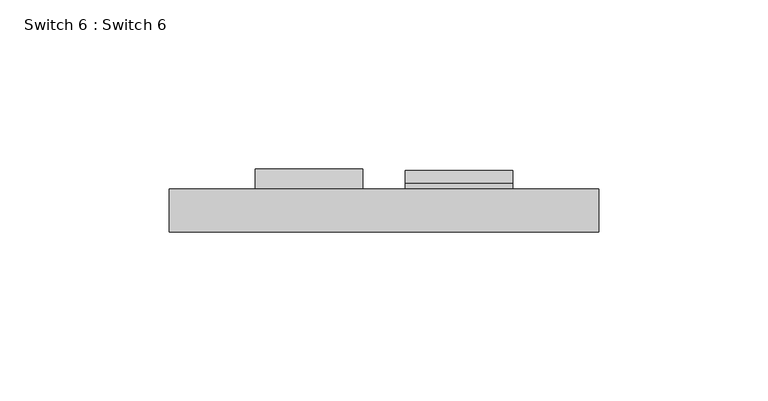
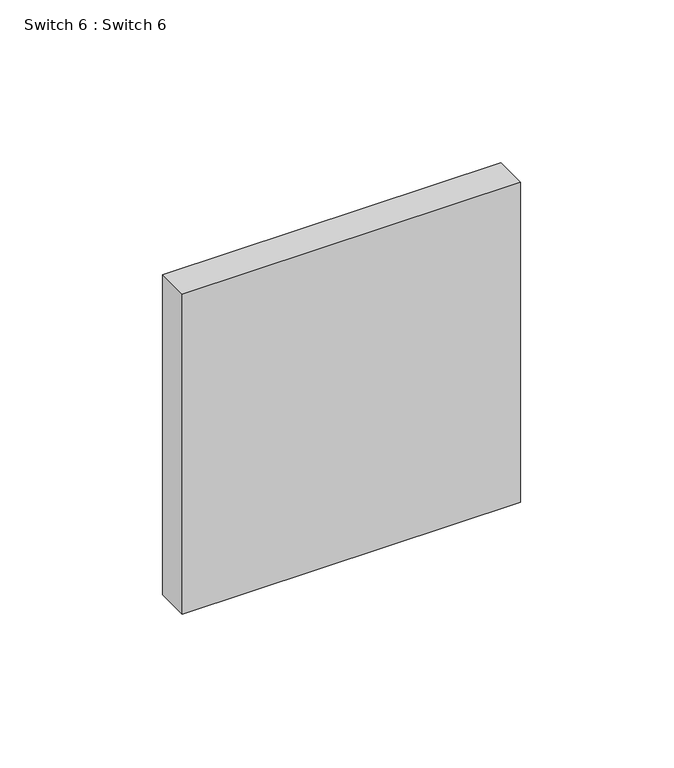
"""IFC4 building model written with IfcOpenShell, lengths in millimetres: proxy geometry, Switch 6 : Switch 6."""

from ifc_helpers import new_model, si_unit, frame, origin, origin_with_axes, place, context, project, spatial, polyline, outline, extrude, source, transform, mapped, element, save


def switch_6_switch_6_ad3d04ee(model_context):
    return source(origin(), model_context, "Body", "SweptSolid", [
        extrude(outline(polyline([(12.7, 29.9435375), (12.7, 97.0564625), (14.2887413, 97.0564625), (14.2887413, 53.2142084), (18.2038595, 31.0133795), (12.7, 29.9435375)])), frame((4.8692501, 0.0, 0.0), z_axis=(1.0, 0.0, 0.0), x_axis=(0.0, 1.0, 0.0)), (0.0, 0.0, 1.0), 31.75),
        extrude(outline(polyline([(12.7, 96.6014583), (18.5970125, 95.4551952), (14.2887413, 71.0249774), (14.2887413, 29.4885334), (12.7, 29.4885334), (12.7, 96.6014583)])), frame((-39.5807499, 0.0, 0.0), z_axis=(1.0, 0.0, 0.0), x_axis=(0.0, 1.0, 0.0)), (0.0, 0.0, 1.0), 31.75),
        extrude(outline(polyline([(-64.9807499, 12.7), (62.0192501, 12.7), (62.0192501, 0.0), (-64.9807499, 0.0), (-64.9807499, 12.7)])), origin_with_axes(), (0.0, 0.0, 1.0), 127.0),
    ])


if __name__ == "__main__":
    model = new_model("IFC4")
    model_context = context("Model", 3, world=origin())
    ifc_project = project(units=[si_unit("LENGTHUNIT", "METRE", prefix="MILLI")], contexts=[model_context])
    site = spatial("IfcSite", under=ifc_project)
    building = spatial("IfcBuilding", under=site)
    placement = place(None, origin())
    switch_6_switch_6_shape = switch_6_switch_6_ad3d04ee(model_context)
    element("IfcBuildingElementProxy", 1, Name="Switch 6 : Switch 6", ObjectType="Switch 6 : Switch 6", at=placement, inside=building, context=model_context, shape_type="MappedRepresentation", body=[
        mapped(switch_6_switch_6_shape, transform((0.0, 0.0, 0.0), x_axis=(1.0, 0.0, 0.0), y_axis=(0.0, 1.0, 0.0), z_axis=(0.0, 0.0, 1.0))),
    ])
    save(model, "model.ifc")
